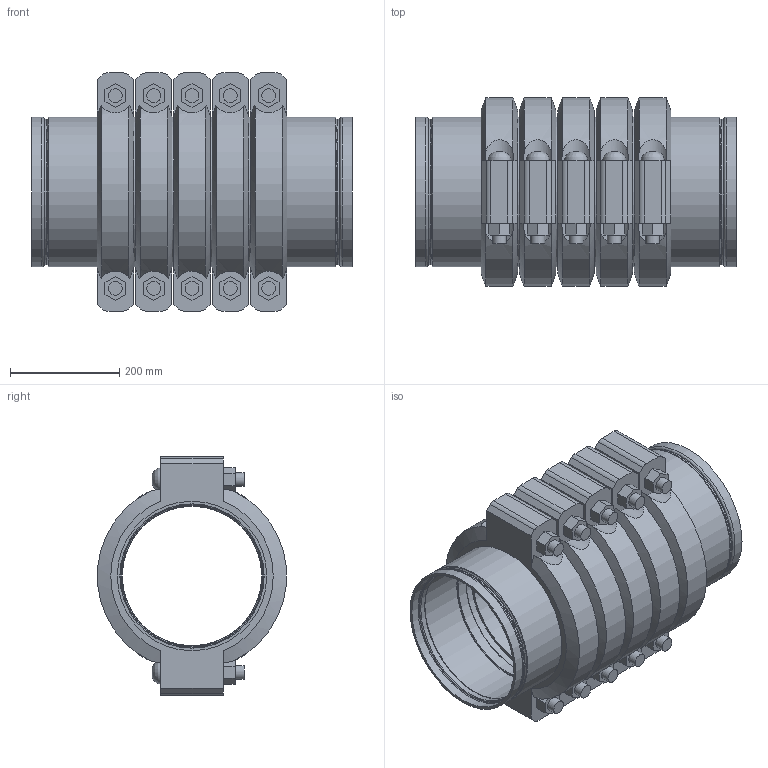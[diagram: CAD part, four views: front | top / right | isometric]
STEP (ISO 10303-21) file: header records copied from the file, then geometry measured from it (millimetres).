
FILE_DESCRIPTION(/* description */ ('VIC STRENGTHIN 100 EXPANSION JOINT 5 COUPLINGS COMPRESSED STYLE E155 (ST1)','CAx-IF Rec.Pracs.---Representation and Presentation of Product Manufacturing Information (PMI)---4.0---2014-10-13'),/* implementation_level */ '2;1');
FILE_NAME(/* name */ 'C:\Users\Vjadhav\AppData\Roaming\Autodesk\ApplicationPlugins\Victaulic.Temp\A149\Victaulic_SS-StrengThin 100_Expansion Joint_Compressed_5 Couplings_Style E155 (ST1)_10 (250).stp',/* time_stamp */ '2021-07-23T12:32:54+05:00',/* author */ ('kkamble'),/* organization */ ('Victaulic'),/* preprocessor_version */ 'ST-DEVELOPER v17.2',/* originating_system */ 'Autodesk Inventor 2019',/* authorisation */ '');
FILE_SCHEMA (('AP242_MANAGED_MODEL_BASED_3D_ENGINEERING_MIM_LF { 1 0 10303 442 1 1 4 }'));
Length unit declared in the file: inch
Products named in the file (4): E155-10.0; E494G-10.0; Nipple-10.0; 077-10.0
Assembly tree (11 placements, depth 2):
  E155-10.0
    E494G-10.0  x2
    Nipple-10.0  x4
    077-10.0  x5
Bounding box: 584.96 x 344.9 x 435.1 mm (x, y, z)
Volume: 17864226.1 mm3; surface area: 2472228.9 mm2
Topology: 11 solids, 21 shells, 403 faces, 1045 edges, 740 vertices
Faces by surface type: plane 208, cylinder 129, torus 32, cone 24, bspline 10
Full cylindrical faces by diameter (mm): 25.4 x20, 27.432 x10, 254.508 x4, 255.626 x2, 258.724 x2, 263.5 x6, 265.176 x2, 268.275 x10, 273.05 x23
Entity records: 3970 total; most frequent: CARTESIAN_POINT 832, DIRECTION 669, ORIENTED_EDGE 568, AXIS2_PLACEMENT_3D 288, EDGE_CURVE 284, VERTEX_POINT 205, CIRCLE 171, EDGE_LOOP 129
